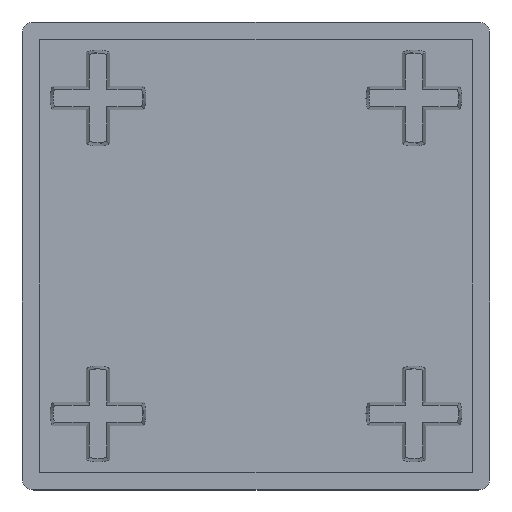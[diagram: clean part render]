
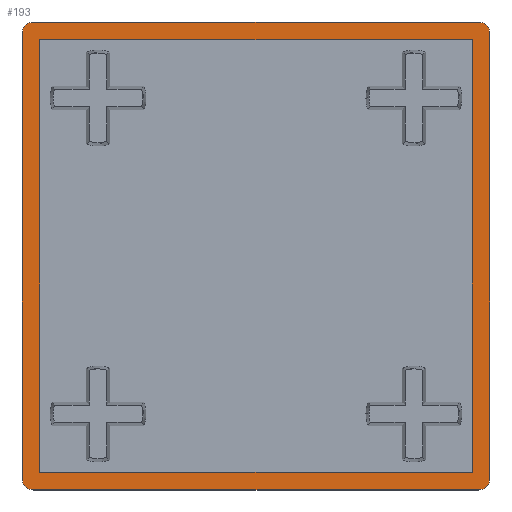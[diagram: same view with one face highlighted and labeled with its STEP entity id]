
A CAD part, top view. The second image highlights one B-rep face of the part: STEP entity #193.
In plain terms, the highlighted planar face has unit normal (0, 0, 1).
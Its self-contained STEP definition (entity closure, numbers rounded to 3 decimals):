
#1 = ORIENTED_EDGE ( 'NONE', *, *, #2146, .F. ) ;
#8 = CARTESIAN_POINT ( 'NONE',  ( -19., -19., 5. ) ) ;
#111 = AXIS2_PLACEMENT_3D ( 'NONE', #8, #580, #1141 ) ;
#138 = LINE ( 'NONE', #667, #724 ) ;
#145 = EDGE_CURVE ( 'NONE', #1696, #867, #1400, .T. ) ;
#193 = ADVANCED_FACE ( 'NONE', ( #1674, #736 ), #891, .T. ) ;
#199 = CARTESIAN_POINT ( 'NONE',  ( -19., 19., 5. ) ) ;
#203 = ORIENTED_EDGE ( 'NONE', *, *, #788, .T. ) ;
#207 = DIRECTION ( 'NONE',  ( 0., 1., 0. ) ) ;
#221 = LINE ( 'NONE', #566, #1900 ) ;
#269 = CARTESIAN_POINT ( 'NONE',  ( -20., -19., 5. ) ) ;
#271 = DIRECTION ( 'NONE',  ( -1., 0., 0. ) ) ;
#305 = DIRECTION ( 'NONE',  ( 0., 1., 0. ) ) ;
#314 = EDGE_CURVE ( 'NONE', #867, #1086, #2214, .T. ) ;
#392 = EDGE_CURVE ( 'NONE', #396, #717, #1500, .T. ) ;
#396 = VERTEX_POINT ( 'NONE', #431 ) ;
#408 = CARTESIAN_POINT ( 'NONE',  ( 19., -20., 5. ) ) ;
#419 = CARTESIAN_POINT ( 'NONE',  ( 18.5, -18.5, 5. ) ) ;
#431 = CARTESIAN_POINT ( 'NONE',  ( -19., -20., 5. ) ) ;
#556 = EDGE_CURVE ( 'NONE', #1914, #1261, #1236, .T. ) ;
#566 = CARTESIAN_POINT ( 'NONE',  ( 20., -20., 5. ) ) ;
#580 = DIRECTION ( 'NONE',  ( 0., 0., 1. ) ) ;
#581 = VERTEX_POINT ( 'NONE', #269 ) ;
#584 = ORIENTED_EDGE ( 'NONE', *, *, #2029, .F. ) ;
#604 = AXIS2_PLACEMENT_3D ( 'NONE', #1492, #2022, #1677 ) ;
#635 = ORIENTED_EDGE ( 'NONE', *, *, #1590, .T. ) ;
#636 = CARTESIAN_POINT ( 'NONE',  ( -18.5, 18.5, 5. ) ) ;
#667 = CARTESIAN_POINT ( 'NONE',  ( 18.5, 18.5, 5. ) ) ;
#717 = VERTEX_POINT ( 'NONE', #408 ) ;
#718 = CARTESIAN_POINT ( 'NONE',  ( -18.5, -18.5, 5. ) ) ;
#724 = VECTOR ( 'NONE', #2166, 1000. ) ;
#736 = FACE_OUTER_BOUND ( 'NONE', #763, .T. ) ;
#758 = CIRCLE ( 'NONE', #604, 1. ) ;
#763 = EDGE_LOOP ( 'NONE', ( #1051, #1250, #203, #1817, #2154, #1117, #1462, #635 ) ) ;
#788 = EDGE_CURVE ( 'NONE', #1349, #1733, #221, .T. ) ;
#829 = CIRCLE ( 'NONE', #991, 1. ) ;
#867 = VERTEX_POINT ( 'NONE', #1403 ) ;
#879 = LINE ( 'NONE', #1708, #2282 ) ;
#885 = CARTESIAN_POINT ( 'NONE',  ( -18.5, 18.5, 5. ) ) ;
#891 = PLANE ( 'NONE',  #1347 ) ;
#935 = EDGE_CURVE ( 'NONE', #1261, #2187, #138, .T. ) ;
#991 = AXIS2_PLACEMENT_3D ( 'NONE', #1379, #1758, #2086 ) ;
#1011 = VECTOR ( 'NONE', #2012, 1000. ) ;
#1033 = VERTEX_POINT ( 'NONE', #718 ) ;
#1051 = ORIENTED_EDGE ( 'NONE', *, *, #392, .T. ) ;
#1058 = LINE ( 'NONE', #1816, #1011 ) ;
#1069 = EDGE_CURVE ( 'NONE', #717, #1349, #758, .T. ) ;
#1086 = VERTEX_POINT ( 'NONE', #1875 ) ;
#1098 = ORIENTED_EDGE ( 'NONE', *, *, #556, .F. ) ;
#1117 = ORIENTED_EDGE ( 'NONE', *, *, #314, .T. ) ;
#1141 = DIRECTION ( 'NONE',  ( 1., 0., 0. ) ) ;
#1187 = AXIS2_PLACEMENT_3D ( 'NONE', #199, #1929, #2258 ) ;
#1196 = EDGE_CURVE ( 'NONE', #1733, #1696, #829, .T. ) ;
#1236 = LINE ( 'NONE', #1988, #1385 ) ;
#1250 = ORIENTED_EDGE ( 'NONE', *, *, #1069, .T. ) ;
#1261 = VERTEX_POINT ( 'NONE', #1541 ) ;
#1277 = EDGE_LOOP ( 'NONE', ( #1790, #1098, #1, #584 ) ) ;
#1328 = DIRECTION ( 'NONE',  ( 1., 0., 0. ) ) ;
#1347 = AXIS2_PLACEMENT_3D ( 'NONE', #2018, #2391, #2233 ) ;
#1349 = VERTEX_POINT ( 'NONE', #1414 ) ;
#1379 = CARTESIAN_POINT ( 'NONE',  ( 19., 19., 5. ) ) ;
#1385 = VECTOR ( 'NONE', #305, 1000. ) ;
#1400 = LINE ( 'NONE', #1808, #1544 ) ;
#1403 = CARTESIAN_POINT ( 'NONE',  ( -19., 20., 5. ) ) ;
#1414 = CARTESIAN_POINT ( 'NONE',  ( 20., -19., 5. ) ) ;
#1462 = ORIENTED_EDGE ( 'NONE', *, *, #1499, .T. ) ;
#1492 = CARTESIAN_POINT ( 'NONE',  ( 19., -19., 5. ) ) ;
#1499 = EDGE_CURVE ( 'NONE', #1086, #581, #879, .T. ) ;
#1500 = LINE ( 'NONE', #2293, #2408 ) ;
#1541 = CARTESIAN_POINT ( 'NONE',  ( 18.5, 18.5, 5. ) ) ;
#1544 = VECTOR ( 'NONE', #271, 1000. ) ;
#1590 = EDGE_CURVE ( 'NONE', #581, #396, #1608, .T. ) ;
#1605 = LINE ( 'NONE', #636, #2002 ) ;
#1608 = CIRCLE ( 'NONE', #111, 1. ) ;
#1674 = FACE_BOUND ( 'NONE', #1277, .T. ) ;
#1677 = DIRECTION ( 'NONE',  ( 1., 0., 0. ) ) ;
#1696 = VERTEX_POINT ( 'NONE', #1792 ) ;
#1708 = CARTESIAN_POINT ( 'NONE',  ( -20., 20., 5. ) ) ;
#1733 = VERTEX_POINT ( 'NONE', #1807 ) ;
#1758 = DIRECTION ( 'NONE',  ( 0., 0., 1. ) ) ;
#1790 = ORIENTED_EDGE ( 'NONE', *, *, #935, .F. ) ;
#1792 = CARTESIAN_POINT ( 'NONE',  ( 19., 20., 5. ) ) ;
#1807 = CARTESIAN_POINT ( 'NONE',  ( 20., 19., 5. ) ) ;
#1808 = CARTESIAN_POINT ( 'NONE',  ( 20., 20., 5. ) ) ;
#1816 = CARTESIAN_POINT ( 'NONE',  ( -18.5, -18.5, 5. ) ) ;
#1817 = ORIENTED_EDGE ( 'NONE', *, *, #1196, .T. ) ;
#1875 = CARTESIAN_POINT ( 'NONE',  ( -20., 19., 5. ) ) ;
#1900 = VECTOR ( 'NONE', #207, 1000. ) ;
#1914 = VERTEX_POINT ( 'NONE', #419 ) ;
#1929 = DIRECTION ( 'NONE',  ( 0., 0., 1. ) ) ;
#1988 = CARTESIAN_POINT ( 'NONE',  ( 18.5, -18.5, 5. ) ) ;
#2002 = VECTOR ( 'NONE', #2359, 1000. ) ;
#2012 = DIRECTION ( 'NONE',  ( 1., 0., 0. ) ) ;
#2018 = CARTESIAN_POINT ( 'NONE',  ( 0., 0., 5. ) ) ;
#2022 = DIRECTION ( 'NONE',  ( 0., 0., 1. ) ) ;
#2029 = EDGE_CURVE ( 'NONE', #2187, #1033, #1605, .T. ) ;
#2086 = DIRECTION ( 'NONE',  ( 1., 0., 0. ) ) ;
#2109 = DIRECTION ( 'NONE',  ( 0., -1., 0. ) ) ;
#2146 = EDGE_CURVE ( 'NONE', #1033, #1914, #1058, .T. ) ;
#2154 = ORIENTED_EDGE ( 'NONE', *, *, #145, .T. ) ;
#2166 = DIRECTION ( 'NONE',  ( -1., 0., 0. ) ) ;
#2187 = VERTEX_POINT ( 'NONE', #885 ) ;
#2214 = CIRCLE ( 'NONE', #1187, 1. ) ;
#2233 = DIRECTION ( 'NONE',  ( 1., 0., 0. ) ) ;
#2258 = DIRECTION ( 'NONE',  ( 1., 0., 0. ) ) ;
#2282 = VECTOR ( 'NONE', #2109, 1000. ) ;
#2293 = CARTESIAN_POINT ( 'NONE',  ( -20., -20., 5. ) ) ;
#2359 = DIRECTION ( 'NONE',  ( 0., -1., 0. ) ) ;
#2391 = DIRECTION ( 'NONE',  ( 0., 0., 1. ) ) ;
#2408 = VECTOR ( 'NONE', #1328, 1000. ) ;
